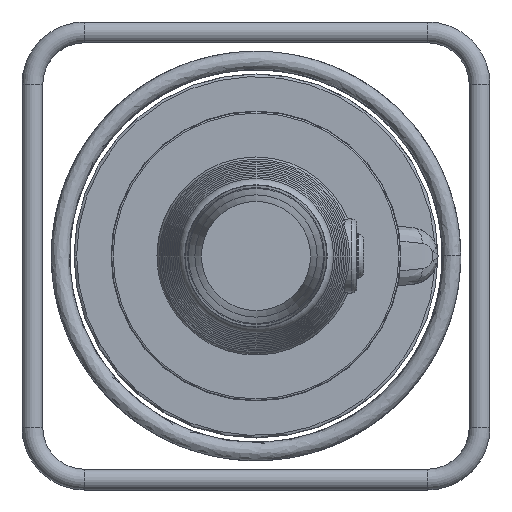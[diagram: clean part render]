
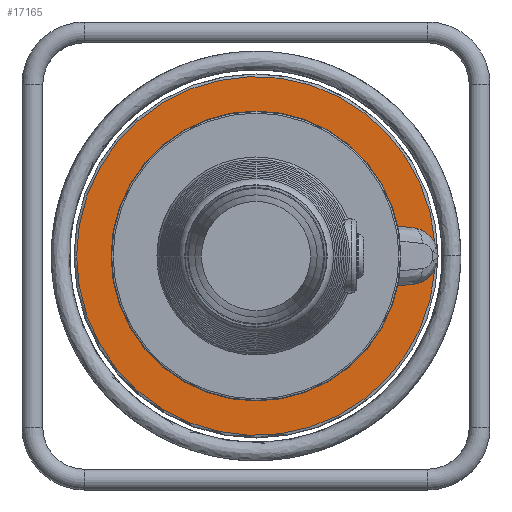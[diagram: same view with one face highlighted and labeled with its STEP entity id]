
A CAD part, left-side view. The second image highlights one B-rep face of the part: STEP entity #17165.
In plain terms, the highlighted planar face has unit normal (-1, 0, 0).
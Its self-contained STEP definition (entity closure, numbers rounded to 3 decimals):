
#818=PLANE('',#18157);
#1808=LINE('',#38154,#2782);
#1809=LINE('',#38161,#2783);
#2782=VECTOR('',#21164,10.);
#2783=VECTOR('',#21171,10.);
#3658=FACE_OUTER_BOUND('',#4699,.T.);
#4699=EDGE_LOOP('',(#14606,#14607,#14608,#14609,#14610,#14611,#14612,#14613,
#14614));
#5775=CIRCLE('',#17476,138.);
#6024=CIRCLE('',#18158,22.);
#6025=CIRCLE('',#18159,138.);
#6026=CIRCLE('',#18160,22.);
#6027=CIRCLE('',#18161,10.);
#6028=CIRCLE('',#18162,91.5);
#6029=CIRCLE('',#18163,10.);
#6524=VERTEX_POINT('',#22684);
#6527=VERTEX_POINT('',#22690);
#7800=VERTEX_POINT('',#38147);
#7801=VERTEX_POINT('',#38148);
#7802=VERTEX_POINT('',#38151);
#7803=VERTEX_POINT('',#38153);
#7804=VERTEX_POINT('',#38155);
#7805=VERTEX_POINT('',#38157);
#7806=VERTEX_POINT('',#38159);
#8218=EDGE_CURVE('',#6527,#6524,#5775,.T.);
#10124=EDGE_CURVE('',#7800,#7801,#6024,.T.);
#10125=EDGE_CURVE('',#6524,#7801,#6025,.T.);
#10126=EDGE_CURVE('',#6527,#7802,#6026,.T.);
#10127=EDGE_CURVE('',#7802,#7803,#1808,.T.);
#10128=EDGE_CURVE('',#7803,#7804,#6027,.T.);
#10129=EDGE_CURVE('',#7804,#7805,#6028,.T.);
#10130=EDGE_CURVE('',#7805,#7806,#6029,.T.);
#10131=EDGE_CURVE('',#7806,#7800,#1809,.T.);
#14606=ORIENTED_EDGE('',*,*,#10124,.T.);
#14607=ORIENTED_EDGE('',*,*,#10125,.F.);
#14608=ORIENTED_EDGE('',*,*,#8218,.F.);
#14609=ORIENTED_EDGE('',*,*,#10126,.T.);
#14610=ORIENTED_EDGE('',*,*,#10127,.T.);
#14611=ORIENTED_EDGE('',*,*,#10128,.T.);
#14612=ORIENTED_EDGE('',*,*,#10129,.T.);
#14613=ORIENTED_EDGE('',*,*,#10130,.T.);
#14614=ORIENTED_EDGE('',*,*,#10131,.T.);
#17165=ADVANCED_FACE('',(#3658),#818,.T.);
#17476=AXIS2_PLACEMENT_3D('',#22701,#18893,#18894);
#18157=AXIS2_PLACEMENT_3D('',#38146,#21156,#21157);
#18158=AXIS2_PLACEMENT_3D('',#38149,#21158,#21159);
#18159=AXIS2_PLACEMENT_3D('',#38150,#21160,#21161);
#18160=AXIS2_PLACEMENT_3D('',#38152,#21162,#21163);
#18161=AXIS2_PLACEMENT_3D('',#38156,#21165,#21166);
#18162=AXIS2_PLACEMENT_3D('',#38158,#21167,#21168);
#18163=AXIS2_PLACEMENT_3D('',#38160,#21169,#21170);
#18893=DIRECTION('center_axis',(1.,0.,0.));
#18894=DIRECTION('ref_axis',(0.,0.,
1.));
#21156=DIRECTION('center_axis',(-1.,0.,0.));
#21157=DIRECTION('ref_axis',(0.,1.,0.));
#21158=DIRECTION('center_axis',(1.,0.,0.));
#21159=DIRECTION('ref_axis',(0.,0.087,0.996));
#21160=DIRECTION('center_axis',(1.,0.,0.));
#21161=DIRECTION('ref_axis',(0.,0.,
1.));
#21162=DIRECTION('center_axis',(1.,0.,0.));
#21163=DIRECTION('ref_axis',(0.,0.087,0.996));
#21164=DIRECTION('',(0.,0.996,-0.087));
#21165=DIRECTION('center_axis',(-1.,0.,0.));
#21166=DIRECTION('ref_axis',(0.,0.087,0.996));
#21167=DIRECTION('center_axis',(1.,0.,0.));
#21168=DIRECTION('ref_axis',(0.,0.,
1.));
#21169=DIRECTION('center_axis',(-1.,0.,0.));
#21170=DIRECTION('ref_axis',(0.,0.934,-0.358));
#21171=DIRECTION('',(0.,-0.996,-0.087));
#22684=CARTESIAN_POINT('',(-31.471,219.707,0.));
#22690=CARTESIAN_POINT('',(-31.471,-55.937,-9.905));
#22701=CARTESIAN_POINT('Origin',(-31.471,81.707,0.));
#38146=CARTESIAN_POINT('Origin',(-31.471,81.707,114.75));
#38147=CARTESIAN_POINT('',(-31.471,-38.21,21.916));
#38148=CARTESIAN_POINT('',(-31.471,-55.937,9.905));
#38149=CARTESIAN_POINT('Origin',(-31.471,-36.293,0.));
#38150=CARTESIAN_POINT('Origin',(-31.471,81.707,0.));
#38151=CARTESIAN_POINT('',(-31.471,-38.21,-21.916));
#38152=CARTESIAN_POINT('Origin',(-31.471,-36.293,0.));
#38153=CARTESIAN_POINT('',(-31.471,-7.519,-24.601));
#38154=CARTESIAN_POINT('',(-31.471,15.36,-26.603));
#38155=CARTESIAN_POINT('',(-31.471,-6.377,-24.768));
#38156=CARTESIAN_POINT('Origin',(-31.471,-8.391,-34.563));
#38157=CARTESIAN_POINT('',(-31.471,-6.377,24.768));
#38158=CARTESIAN_POINT('Origin',(-31.471,81.707,0.));
#38159=CARTESIAN_POINT('',(-31.471,-7.519,24.601));
#38160=CARTESIAN_POINT('Origin',(-31.471,-8.391,34.563));
#38161=CARTESIAN_POINT('',(-31.471,40.669,28.817));
